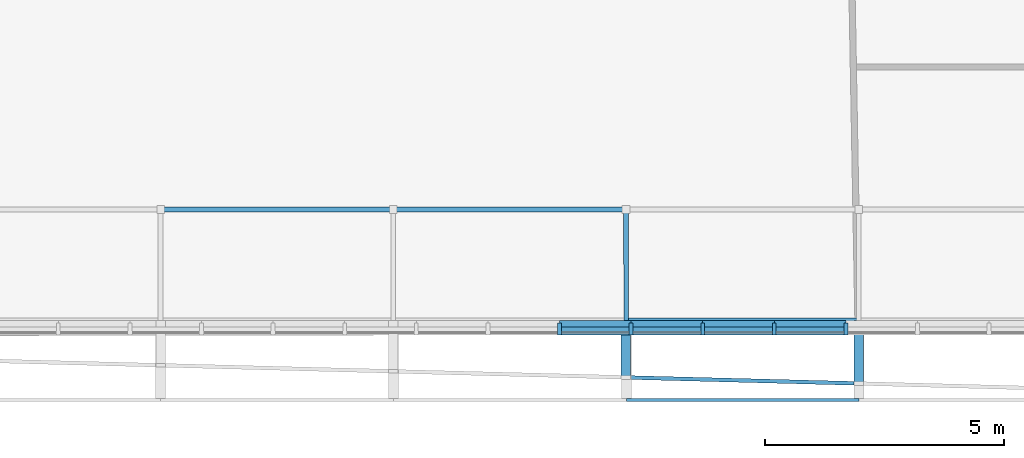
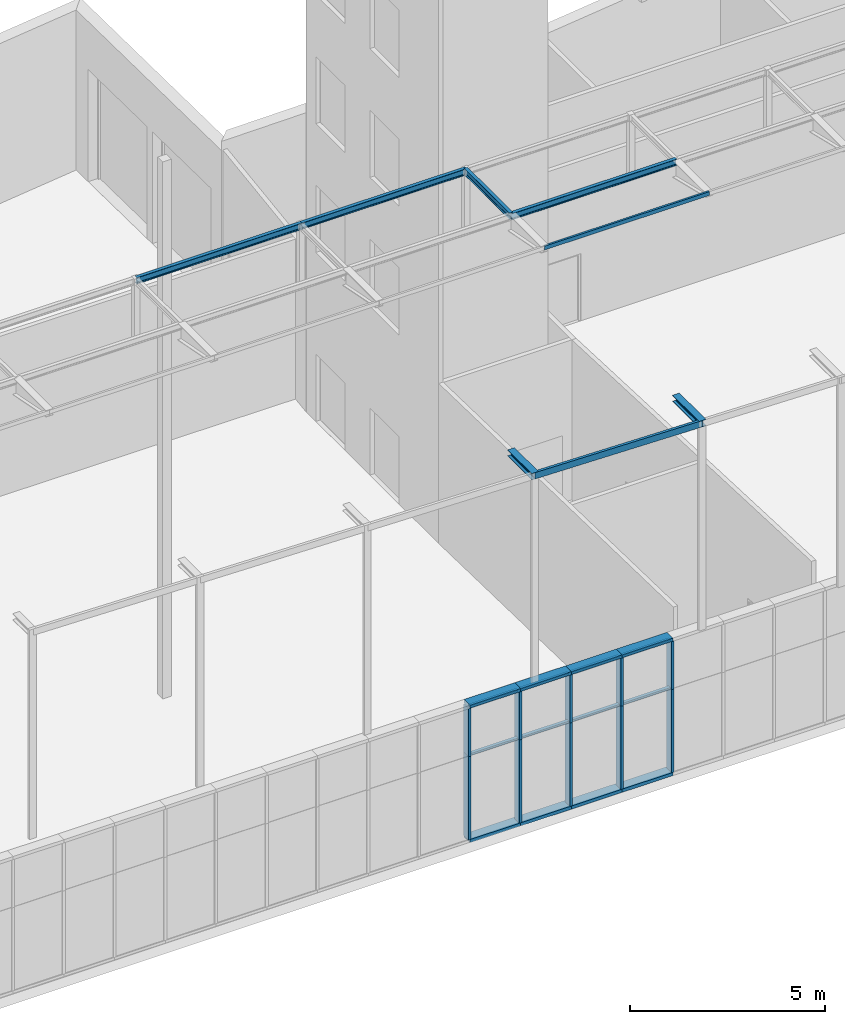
# One storey, part 8 of 40: 26 members, 8 beams, 1 element without a shape of its own.
"""IFC2X3 building model written with IfcOpenShell, lengths in metres."""

from ifc_helpers import new_model, entity, si_unit, converted_unit, money_unit, point, direction, frame, frame_2d, origin_with_axes, place, context, subcontext, project, spatial, polyline, circle_curve, parameter, trimmed, segment, composite_curve, outline, extrude, clip, halfspace, material, type_object, element, aggregate, save


model = new_model("IFC2X3")

# Units and contexts
model_context = context("Model", 3, precision=1e-05, world=origin_with_axes(), true_north=direction((0.0, 1.0)))
body_context = subcontext(model_context, "Body", "Model", "MODEL_VIEW")
ifc_project = project(units=[si_unit("LENGTHUNIT", "METRE"), si_unit("AREAUNIT", "SQUARE_METRE"), si_unit("VOLUMEUNIT", "CUBIC_METRE"), converted_unit("PLANEANGLEUNIT", "DEGREE", entity("IfcPlaneAngleMeasure", 0.0174532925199), si_unit("PLANEANGLEUNIT", "RADIAN"), dimensions=[0, 0, 0, 0, 0, 0, 0]), si_unit("SOLIDANGLEUNIT", "STERADIAN"), money_unit("EUR"), converted_unit("TIMEUNIT", "Year", entity("IfcTimeMeasure", 31556926.0), si_unit("TIMEUNIT", "SECOND"), dimensions=[0, 0, 0, 0, 0, 0, 0]), si_unit("MASSUNIT", "GRAM"), si_unit("THERMODYNAMICTEMPERATUREUNIT", "DEGREE_CELSIUS"), si_unit("LUMINOUSINTENSITYUNIT", "LUMEN")], contexts=[model_context])

# Site, building, storey
site_placement = place(None, origin_with_axes())
site = spatial("IfcSite", under=ifc_project, at=site_placement, Name="Undefined", CompositionType="ELEMENT")
building_placement = place(site_placement, origin_with_axes())
building = spatial("IfcBuilding", under=site, at=building_placement, Name="Undefined", CompositionType="ELEMENT")
storey_placement = place(building_placement, origin_with_axes())
storey = spatial("IfcBuildingStorey", under=building, at=storey_placement, Name="Rez de chauss\x8ee", CompositionType="ELEMENT", Elevation=0.0)

# Beams
ifc_material_1 = material(Name="STEEL/S235JRG2 3386696625")
beam_type_1 = type_object("IfcBeamType", Name="IPE200", PredefinedType="NOTDEFINED")
beam_1_placement = place(storey_placement, frame((24.3824609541, 0.000205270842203, 19.0250297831), z_axis=(0.0, 0.0, 1.0), x_axis=(0.999994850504, 0.00320920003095, 0.0)))
element("IfcBeam", 1, at=beam_1_placement, inside=storey, type_object=beam_type_1, material=ifc_material_1, Name="BEAM", ObjectType="BEAM", context=body_context, shape_type="Clipping", body=[
    clip(clip(clip(extrude(outline(composite_curve([segment(polyline([(0.05, -0.1), (0.05, -0.0915), (0.0147999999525, -0.0915)]), True, "CONTINUOUS"), segment(trimmed(circle_curve(frame_2d((0.0147999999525, -0.0795), x_axis=(-1.0, 0.0)), 0.012), [point((0.0147999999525, -0.0915)), parameter(90.0)], [point((0.0027999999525, -0.0795)), parameter(0.0)], False, "CARTESIAN"), True, "CONTINUOUS"), segment(polyline([(0.0027999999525, -0.0795), (0.0027999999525, 0.0795)]), True, "CONTINUOUS"), segment(trimmed(circle_curve(frame_2d((0.0147999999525, 0.0795), x_axis=(0.0, 1.0)), 0.012), [point((0.0027999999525, 0.0795)), parameter(90.0)], [point((0.0147999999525, 0.0915)), parameter(0.0)], False, "CARTESIAN"), True, "CONTINUOUS"), segment(polyline([(0.0147999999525, 0.0915), (0.05, 0.0915), (0.05, 0.1), (-0.05, 0.1), (-0.05, 0.0915), (-0.0147999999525, 0.0915)]), True, "CONTINUOUS"), segment(trimmed(circle_curve(frame_2d((-0.0147999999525, 0.0795), x_axis=(1.0, 0.0)), 0.012), [point((-0.0147999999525, 0.0915)), parameter(90.0)], [point((-0.0027999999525, 0.0795)), parameter(0.0)], False, "CARTESIAN"), True, "CONTINUOUS"), segment(polyline([(-0.0027999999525, 0.0795), (-0.0027999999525, -0.0795)]), True, "CONTINUOUS"), segment(trimmed(circle_curve(frame_2d((-0.0147999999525, -0.0795), x_axis=(0.0, -1.0)), 0.012), [point((-0.0027999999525, -0.0795)), parameter(90.0)], [point((-0.0147999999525, -0.0915)), parameter(0.0)], False, "CARTESIAN"), True, "CONTINUOUS"), segment(polyline([(-0.0147999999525, -0.0915), (-0.05, -0.0915), (-0.05, -0.1), (0.05, -0.1)]), True, "CONTINUOUS")], self_intersect=False)), frame((0.0, 2.32481220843, -2.78976099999e-05), z_axis=(0.0, -0.999999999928, 1.19999412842e-05), x_axis=(1.0, 0.0, 0.0)), (0.0, 0.0, 1.0), 2.32481560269), halfspace(frame((0.0, 3.39409594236e-06, 0.0), z_axis=(0.0, 0.999999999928, -1.19999412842e-05), x_axis=(0.0, 1.19999412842e-05, 0.999999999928)), True)), halfspace(frame((0.0, 2.32480542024, -2.7897528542e-05), z_axis=(0.0, -0.999999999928, 1.19999412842e-05), x_axis=(0.0, -1.19999412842e-05, -0.999999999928)), True)), halfspace(frame((0.0, 0.0, 0.0), z_axis=(0.0, 1.0, 0.0), x_axis=(0.0, 0.0, 1.0)), True)),
])
beam_2_placement = place(storey_placement, frame((19.4999999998, 2.32499999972, 19.025), z_axis=(0.0, 0.0, 1.0), x_axis=(0.0, -1.0, 0.0)))
element("IfcBeam", 2, at=beam_2_placement, inside=storey, type_object=beam_type_1, material=ifc_material_1, Name="Poutre", ObjectType="BEAM", context=body_context, shape_type="SweptSolid", body=[
    extrude(outline(composite_curve([segment(polyline([(0.05, -0.1), (0.05, -0.0915), (0.0147999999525, -0.0915)]), True, "CONTINUOUS"), segment(trimmed(circle_curve(frame_2d((0.0147999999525, -0.0795), x_axis=(-1.0, 0.0)), 0.012), [point((0.0147999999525, -0.0915)), parameter(90.0)], [point((0.0027999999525, -0.0795)), parameter(0.0)], False, "CARTESIAN"), True, "CONTINUOUS"), segment(polyline([(0.0027999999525, -0.0795), (0.0027999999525, 0.0795)]), True, "CONTINUOUS"), segment(trimmed(circle_curve(frame_2d((0.0147999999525, 0.0795), x_axis=(0.0, 1.0)), 0.012), [point((0.0027999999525, 0.0795)), parameter(90.0)], [point((0.0147999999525, 0.0915)), parameter(0.0)], False, "CARTESIAN"), True, "CONTINUOUS"), segment(polyline([(0.0147999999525, 0.0915), (0.05, 0.0915), (0.05, 0.1), (-0.05, 0.1), (-0.05, 0.0915), (-0.0147999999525, 0.0915)]), True, "CONTINUOUS"), segment(trimmed(circle_curve(frame_2d((-0.0147999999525, 0.0795), x_axis=(1.0, 0.0)), 0.012), [point((-0.0147999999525, 0.0915)), parameter(90.0)], [point((-0.0027999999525, 0.0795)), parameter(0.0)], False, "CARTESIAN"), True, "CONTINUOUS"), segment(polyline([(-0.0027999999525, 0.0795), (-0.0027999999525, -0.0795)]), True, "CONTINUOUS"), segment(trimmed(circle_curve(frame_2d((-0.0147999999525, -0.0795), x_axis=(0.0, -1.0)), 0.012), [point((-0.0027999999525, -0.0795)), parameter(90.0)], [point((-0.0147999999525, -0.0915)), parameter(0.0)], False, "CARTESIAN"), True, "CONTINUOUS"), segment(polyline([(-0.0147999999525, -0.0915), (-0.05, -0.0915), (-0.05, -0.1), (0.05, -0.1)]), True, "CONTINUOUS")], self_intersect=False)), frame((0.0, 4.87500000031, 0.0), z_axis=(0.0, -1.0, 0.0), x_axis=(1.0, 0.0, 0.0)), (0.0, 0.0, 1.0), 4.87500000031),
])
beam_3_placement = place(storey_placement, frame((24.3749993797, 0.000210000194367, 19.02503), z_axis=(0.0, 0.0, 1.0), x_axis=(-4.30769913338e-05, -0.999999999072, 0.0)))
element("IfcBeam", 3, at=beam_3_placement, inside=storey, type_object=beam_type_1, material=ifc_material_1, Name="BEAM", ObjectType="BEAM", context=body_context, shape_type="SweptSolid", body=[
    extrude(outline(composite_curve([segment(polyline([(0.05, -0.1), (0.05, -0.0915), (0.0147999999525, -0.0915)]), True, "CONTINUOUS"), segment(trimmed(circle_curve(frame_2d((0.0147999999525, -0.0795), x_axis=(-1.0, 0.0)), 0.012), [point((0.0147999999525, -0.0915)), parameter(90.0)], [point((0.0027999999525, -0.0795)), parameter(0.0)], False, "CARTESIAN"), True, "CONTINUOUS"), segment(polyline([(0.0027999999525, -0.0795), (0.0027999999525, 0.0795)]), True, "CONTINUOUS"), segment(trimmed(circle_curve(frame_2d((0.0147999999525, 0.0795), x_axis=(0.0, 1.0)), 0.012), [point((0.0027999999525, 0.0795)), parameter(90.0)], [point((0.0147999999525, 0.0915)), parameter(0.0)], False, "CARTESIAN"), True, "CONTINUOUS"), segment(polyline([(0.0147999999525, 0.0915), (0.05, 0.0915), (0.05, 0.1), (-0.05, 0.1), (-0.05, 0.0915), (-0.0147999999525, 0.0915)]), True, "CONTINUOUS"), segment(trimmed(circle_curve(frame_2d((-0.0147999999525, 0.0795), x_axis=(1.0, 0.0)), 0.012), [point((-0.0147999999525, 0.0915)), parameter(90.0)], [point((-0.0027999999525, 0.0795)), parameter(0.0)], False, "CARTESIAN"), True, "CONTINUOUS"), segment(polyline([(-0.0027999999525, 0.0795), (-0.0027999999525, -0.0795)]), True, "CONTINUOUS"), segment(trimmed(circle_curve(frame_2d((-0.0147999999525, -0.0795), x_axis=(0.0, -1.0)), 0.012), [point((-0.0027999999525, -0.0795)), parameter(90.0)], [point((-0.0147999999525, -0.0915)), parameter(0.0)], False, "CARTESIAN"), True, "CONTINUOUS"), segment(polyline([(-0.0147999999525, -0.0915), (-0.05, -0.0915), (-0.05, -0.1), (0.05, -0.1)]), True, "CONTINUOUS")], self_intersect=False)), frame((0.0, 4.87500000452, 0.0), z_axis=(0.0, -1.0, 0.0), x_axis=(1.0, 0.0, 0.0)), (0.0, 0.0, 1.0), 4.87500000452),
])
beam_4_placement = place(storey_placement, frame((14.6250000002, 2.32499999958, 19.025), z_axis=(0.0, 0.0, 1.0), x_axis=(0.0, -1.0, 0.0)))
element("IfcBeam", 4, at=beam_4_placement, inside=storey, type_object=beam_type_1, material=ifc_material_1, Name="Poutre", ObjectType="BEAM", context=body_context, shape_type="SweptSolid", body=[
    extrude(outline(composite_curve([segment(polyline([(0.05, -0.1), (0.05, -0.0915), (0.0147999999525, -0.0915)]), True, "CONTINUOUS"), segment(trimmed(circle_curve(frame_2d((0.0147999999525, -0.0795), x_axis=(-1.0, 0.0)), 0.012), [point((0.0147999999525, -0.0915)), parameter(90.0)], [point((0.0027999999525, -0.0795)), parameter(0.0)], False, "CARTESIAN"), True, "CONTINUOUS"), segment(polyline([(0.0027999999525, -0.0795), (0.0027999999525, 0.0795)]), True, "CONTINUOUS"), segment(trimmed(circle_curve(frame_2d((0.0147999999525, 0.0795), x_axis=(0.0, 1.0)), 0.012), [point((0.0027999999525, 0.0795)), parameter(90.0)], [point((0.0147999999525, 0.0915)), parameter(0.0)], False, "CARTESIAN"), True, "CONTINUOUS"), segment(polyline([(0.0147999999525, 0.0915), (0.05, 0.0915), (0.05, 0.1), (-0.05, 0.1), (-0.05, 0.0915), (-0.0147999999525, 0.0915)]), True, "CONTINUOUS"), segment(trimmed(circle_curve(frame_2d((-0.0147999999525, 0.0795), x_axis=(1.0, 0.0)), 0.012), [point((-0.0147999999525, 0.0915)), parameter(90.0)], [point((-0.0027999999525, 0.0795)), parameter(0.0)], False, "CARTESIAN"), True, "CONTINUOUS"), segment(polyline([(-0.0027999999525, 0.0795), (-0.0027999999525, -0.0795)]), True, "CONTINUOUS"), segment(trimmed(circle_curve(frame_2d((-0.0147999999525, -0.0795), x_axis=(0.0, -1.0)), 0.012), [point((-0.0027999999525, -0.0795)), parameter(90.0)], [point((-0.0147999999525, -0.0915)), parameter(0.0)], False, "CARTESIAN"), True, "CONTINUOUS"), segment(polyline([(-0.0147999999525, -0.0915), (-0.05, -0.0915), (-0.05, -0.1), (0.05, -0.1)]), True, "CONTINUOUS")], self_intersect=False)), frame((0.0, 4.87499999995, 0.0), z_axis=(0.0, -1.0, 0.0), x_axis=(1.0, 0.0, 0.0)), (0.0, 0.0, 1.0), 4.87499999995),
])
beam_type_2 = type_object("IfcBeamType", Name="UPE200", PredefinedType="NOTDEFINED")
beam_5_placement = place(storey_placement, frame((24.3760354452, -1.19360846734, 11.65), z_axis=(0.0, 0.0, 1.0), x_axis=(-0.0258861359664, -0.999664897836, 0.0)))
element("IfcBeam", 5, at=beam_5_placement, inside=storey, type_object=beam_type_2, material=ifc_material_1, Name="BEAM", ObjectType="BEAM", context=body_context, shape_type="SweptSolid", body=[
    extrude(outline(composite_curve([segment(polyline([(-0.04, -0.1), (0.04, -0.1), (0.04, -0.089), (-0.021, -0.089)]), True, "CONTINUOUS"), segment(trimmed(circle_curve(frame_2d((-0.021, -0.076), x_axis=(-1.0, 0.0)), 0.013), [point((-0.021, -0.089)), parameter(90.0)], [point((-0.034, -0.076)), parameter(0.0)], False, "CARTESIAN"), True, "CONTINUOUS"), segment(polyline([(-0.034, -0.076), (-0.034, 0.076)]), True, "CONTINUOUS"), segment(trimmed(circle_curve(frame_2d((-0.021, 0.076), x_axis=(0.0, 1.0)), 0.013), [point((-0.034, 0.076)), parameter(90.0)], [point((-0.021, 0.089)), parameter(0.0)], False, "CARTESIAN"), True, "CONTINUOUS"), segment(polyline([(-0.021, 0.089), (0.04, 0.089), (0.04, 0.1), (-0.04, 0.1), (-0.04, -0.1)]), True, "CONTINUOUS")], self_intersect=False)), frame((0.0, 4.87663417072, 0.0), z_axis=(0.0, -1.0, 0.0), x_axis=(-1.0, 0.0, 0.0)), (0.0, 0.0, 1.0), 4.87663417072),
])
beam_type_3 = type_object("IfcBeamType", Name="UPE120", PredefinedType="NOTDEFINED")
beam_6_placement = place(storey_placement, frame((24.3824622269, -1.66979005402, 19.045), z_axis=(0.0, 0.0, 1.0), x_axis=(-4.30769706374e-05, -0.999999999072, 0.0)))
element("IfcBeam", 6, at=beam_6_placement, inside=storey, type_object=beam_type_3, material=ifc_material_1, Name="Poutre", ObjectType="BEAM", context=body_context, shape_type="SweptSolid", body=[
    extrude(outline(composite_curve([segment(polyline([(-0.03, -0.06), (0.03, -0.06), (0.03, -0.052), (-0.013, -0.052)]), True, "CONTINUOUS"), segment(trimmed(circle_curve(frame_2d((-0.013, -0.04), x_axis=(-1.0, 0.0)), 0.012), [point((-0.013, -0.052)), parameter(90.0)], [point((-0.025, -0.04)), parameter(0.0)], False, "CARTESIAN"), True, "CONTINUOUS"), segment(polyline([(-0.025, -0.04), (-0.025, 0.04)]), True, "CONTINUOUS"), segment(trimmed(circle_curve(frame_2d((-0.013, 0.04), x_axis=(0.0, 1.0)), 0.012), [point((-0.025, 0.04)), parameter(90.0)], [point((-0.013, 0.052)), parameter(0.0)], False, "CARTESIAN"), True, "CONTINUOUS"), segment(polyline([(-0.013, 0.052), (0.03, 0.052), (0.03, 0.06), (-0.03, 0.06), (-0.03, -0.06)]), True, "CONTINUOUS")], self_intersect=False)), frame((0.0, 4.87500000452, 0.0), z_axis=(0.0, -1.0, 0.0), x_axis=(-1.0, 0.0, 0.0)), (0.0, 0.0, 1.0), 4.87500000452),
])
beam_type_4 = type_object("IfcBeamType", Name="HEB200", PredefinedType="NOTDEFINED")
beam_7_placement = place(storey_placement, frame((24.3749999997, 0.000210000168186, 11.65), z_axis=(0.0, 0.0, 1.0), x_axis=(-1.0, 0.0, 0.0)))
element("IfcBeam", 7, at=beam_7_placement, inside=storey, type_object=beam_type_4, material=ifc_material_1, Name="BEAM", ObjectType="BEAM", context=body_context, shape_type="SweptSolid", body=[
    extrude(outline(composite_curve([segment(polyline([(0.1, -0.1), (0.1, -0.085), (0.0225, -0.085)]), True, "CONTINUOUS"), segment(trimmed(circle_curve(frame_2d((0.0225, -0.067), x_axis=(-1.0, 0.0)), 0.018), [point((0.0225, -0.085)), parameter(90.0)], [point((0.0045, -0.067)), parameter(0.0)], False, "CARTESIAN"), True, "CONTINUOUS"), segment(polyline([(0.0045, -0.067), (0.0045, 0.067)]), True, "CONTINUOUS"), segment(trimmed(circle_curve(frame_2d((0.0225, 0.067), x_axis=(0.0, 1.0)), 0.018), [point((0.0045, 0.067)), parameter(90.0)], [point((0.0225, 0.085)), parameter(0.0)], False, "CARTESIAN"), True, "CONTINUOUS"), segment(polyline([(0.0225, 0.085), (0.1, 0.085), (0.1, 0.1), (-0.1, 0.1), (-0.1, 0.085), (-0.0225, 0.085)]), True, "CONTINUOUS"), segment(trimmed(circle_curve(frame_2d((-0.0225, 0.067), x_axis=(1.0, 0.0)), 0.018), [point((-0.0225, 0.085)), parameter(90.0)], [point((-0.0045, 0.067)), parameter(0.0)], False, "CARTESIAN"), True, "CONTINUOUS"), segment(polyline([(-0.0045, 0.067), (-0.0045, -0.067)]), True, "CONTINUOUS"), segment(trimmed(circle_curve(frame_2d((-0.0225, -0.067), x_axis=(0.0, -1.0)), 0.018), [point((-0.0045, -0.067)), parameter(90.0)], [point((-0.0225, -0.085)), parameter(0.0)], False, "CARTESIAN"), True, "CONTINUOUS"), segment(polyline([(-0.0225, -0.085), (-0.1, -0.085), (-0.1, -0.1), (0.1, -0.1)]), True, "CONTINUOUS")], self_intersect=False)), frame((0.0, 1.23230703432, 0.0), z_axis=(0.0, -1.0, 0.0), x_axis=(1.0, 0.0, 0.0)), (0.0, 0.0, 1.0), 1.23230703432),
])
beam_8_placement = place(storey_placement, frame((29.2499999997, 3.11343839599e-10, 11.65), z_axis=(0.0, 0.0, 1.0), x_axis=(-1.0, 0.0, 0.0)))
element("IfcBeam", 8, at=beam_8_placement, inside=storey, type_object=beam_type_4, material=ifc_material_1, Name="BEAM", ObjectType="BEAM", context=body_context, shape_type="SweptSolid", body=[
    extrude(outline(composite_curve([segment(polyline([(0.1, -0.1), (0.1, -0.085), (0.0225, -0.085)]), True, "CONTINUOUS"), segment(trimmed(circle_curve(frame_2d((0.0225, -0.067), x_axis=(-1.0, 0.0)), 0.018), [point((0.0225, -0.085)), parameter(90.0)], [point((0.0045, -0.067)), parameter(0.0)], False, "CARTESIAN"), True, "CONTINUOUS"), segment(polyline([(0.0045, -0.067), (0.0045, 0.067)]), True, "CONTINUOUS"), segment(trimmed(circle_curve(frame_2d((0.0225, 0.067), x_axis=(0.0, 1.0)), 0.018), [point((0.0045, 0.067)), parameter(90.0)], [point((0.0225, 0.085)), parameter(0.0)], False, "CARTESIAN"), True, "CONTINUOUS"), segment(polyline([(0.0225, 0.085), (0.1, 0.085), (0.1, 0.1), (-0.1, 0.1), (-0.1, 0.085), (-0.0225, 0.085)]), True, "CONTINUOUS"), segment(trimmed(circle_curve(frame_2d((-0.0225, 0.067), x_axis=(1.0, 0.0)), 0.018), [point((-0.0225, 0.085)), parameter(90.0)], [point((-0.0045, 0.067)), parameter(0.0)], False, "CARTESIAN"), True, "CONTINUOUS"), segment(polyline([(-0.0045, 0.067), (-0.0045, -0.067)]), True, "CONTINUOUS"), segment(trimmed(circle_curve(frame_2d((-0.0225, -0.067), x_axis=(0.0, -1.0)), 0.018), [point((-0.0045, -0.067)), parameter(90.0)], [point((-0.0225, -0.085)), parameter(0.0)], False, "CARTESIAN"), True, "CONTINUOUS"), segment(polyline([(-0.0225, -0.085), (-0.1, -0.085), (-0.1, -0.1), (0.1, -0.1)]), True, "CONTINUOUS")], self_intersect=False)), frame((0.0, 1.35983228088, 0.0), z_axis=(0.0, -1.0, 0.0), x_axis=(1.0, 0.0, 0.0)), (0.0, 0.0, 1.0), 1.35983228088),
])

# Curtain wall, members
curtain_wall_type = type_object("IfcCurtainWallType", Name="Type de mur-rideau", PredefinedType="NOTDEFINED")
curtain_wall_placement = place(storey_placement, frame((61.0415862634, -0.249999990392, 0.1), z_axis=(0.0, 0.0, 1.0), x_axis=(1.0, 0.0, 0.0)))
curtain_wall = element("IfcCurtainWall", 9, at=curtain_wall_placement, inside=storey, type_object=curtain_wall_type, Name="CurtainWall_02", ObjectType="CURTAIN WALL")
ifc_material_2 = material(Name="25 % 359672764")
member_type_1 = type_object("IfcMemberType", Name="Cadre 100 x 300", PredefinedType="NOTDEFINED")
member_1_placement = place(curtain_wall_placement, frame((-38.0584137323, 6.54860407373e-07, 0.0), z_axis=(1.0, -1.72067183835e-08, 0.0), x_axis=(0.0, 0.0, 1.0)))
member_1 = element("IfcMember", 10, at=member_1_placement, type_object=member_type_1, material=ifc_material_2, Name="Frame-Bnd-930", context=body_context, shape_type="SweptSolid", body=[
    extrude(outline(polyline([(-0.25, -0.1), (0.05, -0.1), (0.05, 0.0), (-0.25, 0.0), (-0.25, -0.1)])), frame((0.0, 0.0, 0.0), z_axis=(0.0, 0.0, 1.0), x_axis=(0.0, 1.0, 0.0)), (0.0, 0.0, 1.0), 1.5),
])
member_2_placement = place(curtain_wall_placement, frame((-36.5584137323, 6.29050329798e-07, 0.0), z_axis=(1.0, -1.7206718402e-08, 0.0), x_axis=(0.0, 0.0, 1.0)))
member_2 = element("IfcMember", 11, at=member_2_placement, type_object=member_type_1, material=ifc_material_2, Name="Frame-Bnd-929", context=body_context, shape_type="SweptSolid", body=[
    extrude(outline(polyline([(-0.25, -0.1), (0.05, -0.1), (0.05, 0.0), (-0.25, 0.0), (-0.25, -0.1)])), frame((0.0, 0.0, 0.0), z_axis=(0.0, 0.0, 1.0), x_axis=(0.0, 1.0, 0.0)), (0.0, 0.0, 1.0), 1.5),
])
member_3_placement = place(curtain_wall_placement, frame((-35.0584137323, 6.03240252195e-07, 0.0), z_axis=(1.0, -1.72067183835e-08, 0.0), x_axis=(0.0, 0.0, 1.0)))
member_3 = element("IfcMember", 12, at=member_3_placement, type_object=member_type_1, material=ifc_material_2, Name="Frame-Bnd-928", context=body_context, shape_type="SweptSolid", body=[
    extrude(outline(polyline([(-0.25, -0.1), (0.05, -0.1), (0.05, 0.0), (-0.25, 0.0), (-0.25, -0.1)])), frame((0.0, 0.0, 0.0), z_axis=(0.0, 0.0, 1.0), x_axis=(0.0, 1.0, 0.0)), (0.0, 0.0, 1.0), 1.5),
])
member_4_placement = place(curtain_wall_placement, frame((-33.5584137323, 5.7743017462e-07, 0.0), z_axis=(1.0, -1.72067183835e-08, 0.0), x_axis=(0.0, 0.0, 1.0)))
member_4 = element("IfcMember", 13, at=member_4_placement, type_object=member_type_1, material=ifc_material_2, Name="Frame-Bnd-927", context=body_context, shape_type="SweptSolid", body=[
    extrude(outline(polyline([(-0.25, -0.1), (0.05, -0.1), (0.05, 0.0), (-0.25, 0.0), (-0.25, -0.1)])), frame((0.0, 0.0, 0.0), z_axis=(0.0, 0.0, 1.0), x_axis=(0.0, 1.0, 0.0)), (0.0, 0.0, 1.0), 1.5),
])
member_5_placement = place(curtain_wall_placement, frame((-32.0584137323, 5.51620097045e-07, 4.3), z_axis=(-1.0, 1.72067183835e-08, 0.0), x_axis=(0.0, 0.0, -1.0)))
member_5 = element("IfcMember", 14, at=member_5_placement, type_object=member_type_1, material=ifc_material_2, Name="Frame-Bnd-791", context=body_context, shape_type="SweptSolid", body=[
    extrude(outline(polyline([(0.25, 0.1), (-0.05, 0.1), (-0.05, 0.0), (0.25, 0.0), (0.25, 0.1)])), frame((0.0, 0.0, 0.0), z_axis=(0.0, 0.0, 1.0), x_axis=(0.0, -1.0, 0.0)), (0.0, 0.0, 1.0), 1.5),
])
member_6_placement = place(curtain_wall_placement, frame((-33.5584137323, 5.7743017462e-07, 4.3), z_axis=(-1.0, 1.72067183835e-08, 0.0), x_axis=(0.0, 0.0, -1.0)))
member_6 = element("IfcMember", 15, at=member_6_placement, type_object=member_type_1, material=ifc_material_2, Name="Frame-Bnd-790", context=body_context, shape_type="SweptSolid", body=[
    extrude(outline(polyline([(0.25, 0.1), (-0.05, 0.1), (-0.05, 0.0), (0.25, 0.0), (0.25, 0.1)])), frame((0.0, 0.0, 0.0), z_axis=(0.0, 0.0, 1.0), x_axis=(0.0, -1.0, 0.0)), (0.0, 0.0, 1.0), 1.5),
])
member_7_placement = place(curtain_wall_placement, frame((-35.0584137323, 6.03240252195e-07, 4.3), z_axis=(-1.0, 1.7206718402e-08, 0.0), x_axis=(0.0, 0.0, -1.0)))
member_7 = element("IfcMember", 16, at=member_7_placement, type_object=member_type_1, material=ifc_material_2, Name="Frame-Bnd-789", context=body_context, shape_type="SweptSolid", body=[
    extrude(outline(polyline([(0.25, 0.1), (-0.05, 0.1), (-0.05, 0.0), (0.25, 0.0), (0.25, 0.1)])), frame((0.0, 0.0, 0.0), z_axis=(0.0, 0.0, 1.0), x_axis=(0.0, -1.0, 0.0)), (0.0, 0.0, 1.0), 1.5),
])
member_8_placement = place(curtain_wall_placement, frame((-36.5584137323, 6.29050329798e-07, 4.3), z_axis=(-1.0, 1.72067183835e-08, 0.0), x_axis=(0.0, 0.0, -1.0)))
member_8 = element("IfcMember", 17, at=member_8_placement, type_object=member_type_1, material=ifc_material_2, Name="Frame-Bnd-788", context=body_context, shape_type="SweptSolid", body=[
    extrude(outline(polyline([(0.25, 0.1), (-0.05, 0.1), (-0.05, 0.0), (0.25, 0.0), (0.25, 0.1)])), frame((0.0, 0.0, 0.0), z_axis=(0.0, 0.0, 1.0), x_axis=(0.0, -1.0, 0.0)), (0.0, 0.0, 1.0), 1.5),
])
member_type_2 = type_object("IfcMemberType", Name="Montant 80 x 250", PredefinedType="NOTDEFINED")
member_9_placement = place(curtain_wall_placement, frame((-38.0584137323, 6.54860407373e-07, 0.0), z_axis=(0.0, 0.0, 1.0), x_axis=(-1.0, 1.72067183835e-08, 0.0)))
member_9 = element("IfcMember", 18, at=member_9_placement, type_object=member_type_2, material=ifc_material_2, Name="Frame-Mll-283", context=body_context, shape_type="SweptSolid", body=[
    extrude(outline(polyline([(-0.0399999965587, 0.200000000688), (-0.0400000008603, -0.0499999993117), (0.0399999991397, -0.0500000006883), (0.0400000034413, 0.199999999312), (-0.0399999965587, 0.200000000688)])), frame((0.0, 0.0, 0.1), z_axis=(0.0, 0.0, 1.0), x_axis=(-1.0, -1.72067183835e-08, 0.0)), (0.0, 0.0, 1.0), 2.6),
])
member_10_placement = place(curtain_wall_placement, frame((-36.5584137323, 6.29050329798e-07, 0.0), z_axis=(0.0, 0.0, 1.0), x_axis=(-1.0, 1.72067183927e-08, 0.0)))
member_10 = element("IfcMember", 19, at=member_10_placement, type_object=member_type_2, material=ifc_material_2, Name="Frame-Mll-283", context=body_context, shape_type="SweptSolid", body=[
    extrude(outline(polyline([(-0.0399999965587, 0.200000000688), (-0.0400000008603, -0.0499999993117), (0.0399999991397, -0.0500000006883), (0.0400000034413, 0.199999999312), (-0.0399999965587, 0.200000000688)])), frame((0.0, 0.0, 0.1), z_axis=(0.0, 0.0, 1.0), x_axis=(-1.0, -1.72067183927e-08, 0.0)), (0.0, 0.0, 1.0), 2.6),
])
member_11_placement = place(curtain_wall_placement, frame((-35.0584137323, 6.03240252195e-07, 0.0), z_axis=(0.0, 0.0, 1.0), x_axis=(-1.0, 1.72067183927e-08, 0.0)))
member_11 = element("IfcMember", 20, at=member_11_placement, type_object=member_type_2, material=ifc_material_2, Name="Frame-Mll-283", context=body_context, shape_type="SweptSolid", body=[
    extrude(outline(polyline([(-0.0399999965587, 0.200000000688), (-0.0400000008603, -0.0499999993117), (0.0399999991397, -0.0500000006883), (0.0400000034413, 0.199999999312), (-0.0399999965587, 0.200000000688)])), frame((0.0, 0.0, 0.1), z_axis=(0.0, 0.0, 1.0), x_axis=(-1.0, -1.72067183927e-08, 0.0)), (0.0, 0.0, 1.0), 2.6),
])
member_12_placement = place(curtain_wall_placement, frame((-33.5584137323, 5.7743017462e-07, 0.0), z_axis=(0.0, 0.0, 1.0), x_axis=(-1.0, 1.72067183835e-08, 0.0)))
member_12 = element("IfcMember", 21, at=member_12_placement, type_object=member_type_2, material=ifc_material_2, Name="Frame-Mll-283", context=body_context, shape_type="SweptSolid", body=[
    extrude(outline(polyline([(-0.0399999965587, 0.200000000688), (-0.0400000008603, -0.0499999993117), (0.0399999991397, -0.0500000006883), (0.0400000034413, 0.199999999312), (-0.0399999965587, 0.200000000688)])), frame((0.0, 0.0, 0.1), z_axis=(0.0, 0.0, 1.0), x_axis=(-1.0, -1.72067183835e-08, 0.0)), (0.0, 0.0, 1.0), 2.6),
])
member_13_placement = place(curtain_wall_placement, frame((-32.0584137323, 5.51620097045e-07, 0.0), z_axis=(0.0, 0.0, 1.0), x_axis=(-1.0, 1.72067183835e-08, 0.0)))
member_13 = element("IfcMember", 22, at=member_13_placement, type_object=member_type_2, material=ifc_material_2, Name="Frame-Mll-283", context=body_context, shape_type="SweptSolid", body=[
    extrude(outline(polyline([(-0.0399999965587, 0.200000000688), (-0.0400000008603, -0.0499999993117), (0.0399999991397, -0.0500000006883), (0.0400000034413, 0.199999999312), (-0.0399999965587, 0.200000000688)])), frame((0.0, 0.0, 0.1), z_axis=(0.0, 0.0, 1.0), x_axis=(-1.0, -1.72067183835e-08, 0.0)), (0.0, 0.0, 1.0), 2.6),
])
member_14_placement = place(curtain_wall_placement, frame((-38.0584137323, 6.54860407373e-07, 2.7), z_axis=(0.0, 0.0, 1.0), x_axis=(-1.0, 1.72067183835e-08, 0.0)))
member_14 = element("IfcMember", 23, at=member_14_placement, type_object=member_type_2, material=ifc_material_2, Name="Frame-Mll-663", context=body_context, shape_type="SweptSolid", body=[
    extrude(outline(polyline([(-0.0399999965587, 0.200000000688), (-0.0400000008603, -0.0499999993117), (0.0399999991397, -0.0500000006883), (0.0400000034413, 0.199999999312), (-0.0399999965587, 0.200000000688)])), frame((0.0, 0.0, 0.0), z_axis=(0.0, 0.0, 1.0), x_axis=(-1.0, -1.72067183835e-08, 0.0)), (0.0, 0.0, 1.0), 1.5),
])
member_15_placement = place(curtain_wall_placement, frame((-36.5584137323, 6.29050329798e-07, 2.7), z_axis=(0.0, 0.0, 1.0), x_axis=(-1.0, 1.72067183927e-08, 0.0)))
member_15 = element("IfcMember", 24, at=member_15_placement, type_object=member_type_2, material=ifc_material_2, Name="Frame-Mll-664", context=body_context, shape_type="SweptSolid", body=[
    extrude(outline(polyline([(-0.0399999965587, 0.200000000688), (-0.0400000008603, -0.0499999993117), (0.0399999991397, -0.0500000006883), (0.0400000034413, 0.199999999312), (-0.0399999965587, 0.200000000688)])), frame((0.0, 0.0, 0.0), z_axis=(0.0, 0.0, 1.0), x_axis=(-1.0, -1.72067183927e-08, 0.0)), (0.0, 0.0, 1.0), 1.5),
])
member_16_placement = place(curtain_wall_placement, frame((-35.0584137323, 6.03240252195e-07, 2.7), z_axis=(0.0, 0.0, 1.0), x_axis=(-1.0, 1.72067183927e-08, 0.0)))
member_16 = element("IfcMember", 25, at=member_16_placement, type_object=member_type_2, material=ifc_material_2, Name="Frame-Mll-665", context=body_context, shape_type="SweptSolid", body=[
    extrude(outline(polyline([(-0.0399999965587, 0.200000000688), (-0.0400000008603, -0.0499999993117), (0.0399999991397, -0.0500000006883), (0.0400000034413, 0.199999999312), (-0.0399999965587, 0.200000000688)])), frame((0.0, 0.0, 0.0), z_axis=(0.0, 0.0, 1.0), x_axis=(-1.0, -1.72067183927e-08, 0.0)), (0.0, 0.0, 1.0), 1.5),
])
member_17_placement = place(curtain_wall_placement, frame((-33.5584137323, 5.7743017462e-07, 2.7), z_axis=(0.0, 0.0, 1.0), x_axis=(-1.0, 1.72067183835e-08, 0.0)))
member_17 = element("IfcMember", 26, at=member_17_placement, type_object=member_type_2, material=ifc_material_2, Name="Frame-Mll-666", context=body_context, shape_type="SweptSolid", body=[
    extrude(outline(polyline([(-0.0399999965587, 0.200000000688), (-0.0400000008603, -0.0499999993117), (0.0399999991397, -0.0500000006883), (0.0400000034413, 0.199999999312), (-0.0399999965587, 0.200000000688)])), frame((0.0, 0.0, 0.0), z_axis=(0.0, 0.0, 1.0), x_axis=(-1.0, -1.72067183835e-08, 0.0)), (0.0, 0.0, 1.0), 1.5),
])
member_18_placement = place(curtain_wall_placement, frame((-32.0584137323, 5.51620097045e-07, 2.7), z_axis=(0.0, 0.0, 1.0), x_axis=(-1.0, 1.72067183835e-08, 0.0)))
member_18 = element("IfcMember", 27, at=member_18_placement, type_object=member_type_2, material=ifc_material_2, Name="Frame-Mll-667", context=body_context, shape_type="SweptSolid", body=[
    extrude(outline(polyline([(-0.0399999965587, 0.200000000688), (-0.0400000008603, -0.0499999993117), (0.0399999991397, -0.0500000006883), (0.0400000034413, 0.199999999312), (-0.0399999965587, 0.200000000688)])), frame((0.0, 0.0, 0.0), z_axis=(0.0, 0.0, 1.0), x_axis=(-1.0, -1.72067183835e-08, 0.0)), (0.0, 0.0, 1.0), 1.5),
])
member_type_3 = type_object("IfcMemberType", Name="Traverse 60 x 100", PredefinedType="NOTDEFINED")
member_19_placement = place(curtain_wall_placement, frame((-38.0584137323, 6.54860407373e-07, 2.7), z_axis=(1.0, -1.72067183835e-08, 0.0), x_axis=(0.0, 0.0, 1.0)))
member_19 = element("IfcMember", 28, at=member_19_placement, type_object=member_type_3, material=ifc_material_2, Name="Frame-Trs-922", context=body_context, shape_type="SweptSolid", body=[
    extrude(outline(polyline([(-0.11, -0.03), (-0.01, -0.03), (-0.01, 0.03), (-0.11, 0.03), (-0.11, -0.03)])), frame((0.0, 0.0, 0.04), z_axis=(0.0, 0.0, 1.0), x_axis=(0.0, 1.0, 0.0)), (0.0, 0.0, 1.0), 1.42),
])
member_20_placement = place(curtain_wall_placement, frame((-36.5584137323, 6.29050329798e-07, 2.7), z_axis=(1.0, -1.7206718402e-08, 0.0), x_axis=(0.0, 0.0, 1.0)))
member_20 = element("IfcMember", 29, at=member_20_placement, type_object=member_type_3, material=ifc_material_2, Name="Frame-Trs-922", context=body_context, shape_type="SweptSolid", body=[
    extrude(outline(polyline([(-0.11, -0.03), (-0.01, -0.03), (-0.01, 0.03), (-0.11, 0.03), (-0.11, -0.03)])), frame((0.0, 0.0, 0.04), z_axis=(0.0, 0.0, 1.0), x_axis=(0.0, 1.0, 0.0)), (0.0, 0.0, 1.0), 1.42),
])
member_21_placement = place(curtain_wall_placement, frame((-35.0584137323, 6.03240252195e-07, 2.7), z_axis=(1.0, -1.72067183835e-08, 0.0), x_axis=(0.0, 0.0, 1.0)))
member_21 = element("IfcMember", 30, at=member_21_placement, type_object=member_type_3, material=ifc_material_2, Name="Frame-Trs-922", context=body_context, shape_type="SweptSolid", body=[
    extrude(outline(polyline([(-0.11, -0.03), (-0.01, -0.03), (-0.01, 0.03), (-0.11, 0.03), (-0.11, -0.03)])), frame((0.0, 0.0, 0.04), z_axis=(0.0, 0.0, 1.0), x_axis=(0.0, 1.0, 0.0)), (0.0, 0.0, 1.0), 1.42),
])
member_22_placement = place(curtain_wall_placement, frame((-33.5584137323, 5.7743017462e-07, 2.7), z_axis=(1.0, -1.72067183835e-08, 0.0), x_axis=(0.0, 0.0, 1.0)))
member_22 = element("IfcMember", 31, at=member_22_placement, type_object=member_type_3, material=ifc_material_2, Name="Frame-Trs-922", context=body_context, shape_type="SweptSolid", body=[
    extrude(outline(polyline([(-0.11, -0.03), (-0.01, -0.03), (-0.01, 0.03), (-0.11, 0.03), (-0.11, -0.03)])), frame((0.0, 0.0, 0.04), z_axis=(0.0, 0.0, 1.0), x_axis=(0.0, 1.0, 0.0)), (0.0, 0.0, 1.0), 1.42),
])
member_23_placement = place(curtain_wall_placement, frame((-38.0584137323, 6.54860407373e-07, 4.2), z_axis=(1.0, -1.72067183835e-08, 0.0), x_axis=(0.0, 0.0, 1.0)))
member_23 = element("IfcMember", 32, at=member_23_placement, type_object=member_type_3, material=ifc_material_2, Name="Frame-Trs-227", context=body_context, shape_type="SweptSolid", body=[
    extrude(outline(polyline([(-0.11, -0.03), (-0.01, -0.03), (-0.01, 0.03), (-0.11, 0.03), (-0.11, -0.03)])), frame((0.0, 0.0, 0.04), z_axis=(0.0, 0.0, 1.0), x_axis=(0.0, 1.0, 0.0)), (0.0, 0.0, 1.0), 1.42),
])
member_24_placement = place(curtain_wall_placement, frame((-36.5584137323, 6.29050329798e-07, 4.2), z_axis=(1.0, -1.7206718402e-08, 0.0), x_axis=(0.0, 0.0, 1.0)))
member_24 = element("IfcMember", 33, at=member_24_placement, type_object=member_type_3, material=ifc_material_2, Name="Frame-Trs-227", context=body_context, shape_type="SweptSolid", body=[
    extrude(outline(polyline([(-0.11, -0.03), (-0.01, -0.03), (-0.01, 0.03), (-0.11, 0.03), (-0.11, -0.03)])), frame((0.0, 0.0, 0.04), z_axis=(0.0, 0.0, 1.0), x_axis=(0.0, 1.0, 0.0)), (0.0, 0.0, 1.0), 1.42),
])
member_25_placement = place(curtain_wall_placement, frame((-35.0584137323, 6.03240252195e-07, 4.2), z_axis=(1.0, -1.72067183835e-08, 0.0), x_axis=(0.0, 0.0, 1.0)))
member_25 = element("IfcMember", 34, at=member_25_placement, type_object=member_type_3, material=ifc_material_2, Name="Frame-Trs-227", context=body_context, shape_type="SweptSolid", body=[
    extrude(outline(polyline([(-0.11, -0.03), (-0.01, -0.03), (-0.01, 0.03), (-0.11, 0.03), (-0.11, -0.03)])), frame((0.0, 0.0, 0.04), z_axis=(0.0, 0.0, 1.0), x_axis=(0.0, 1.0, 0.0)), (0.0, 0.0, 1.0), 1.42),
])
member_26_placement = place(curtain_wall_placement, frame((-33.5584137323, 5.7743017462e-07, 4.2), z_axis=(1.0, -1.72067183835e-08, 0.0), x_axis=(0.0, 0.0, 1.0)))
member_26 = element("IfcMember", 35, at=member_26_placement, type_object=member_type_3, material=ifc_material_2, Name="Frame-Trs-227", context=body_context, shape_type="SweptSolid", body=[
    extrude(outline(polyline([(-0.11, -0.03), (-0.01, -0.03), (-0.01, 0.03), (-0.11, 0.03), (-0.11, -0.03)])), frame((0.0, 0.0, 0.04), z_axis=(0.0, 0.0, 1.0), x_axis=(0.0, 1.0, 0.0)), (0.0, 0.0, 1.0), 1.42),
])
aggregate(curtain_wall, [member_9, member_10, member_11, member_12, member_13, member_1, member_2, member_3, member_4, member_19, member_20, member_21, member_22, member_14, member_15, member_16, member_17, member_18, member_23, member_24, member_25, member_26, member_5, member_6, member_7, member_8])

save(model, "model.ifc")
